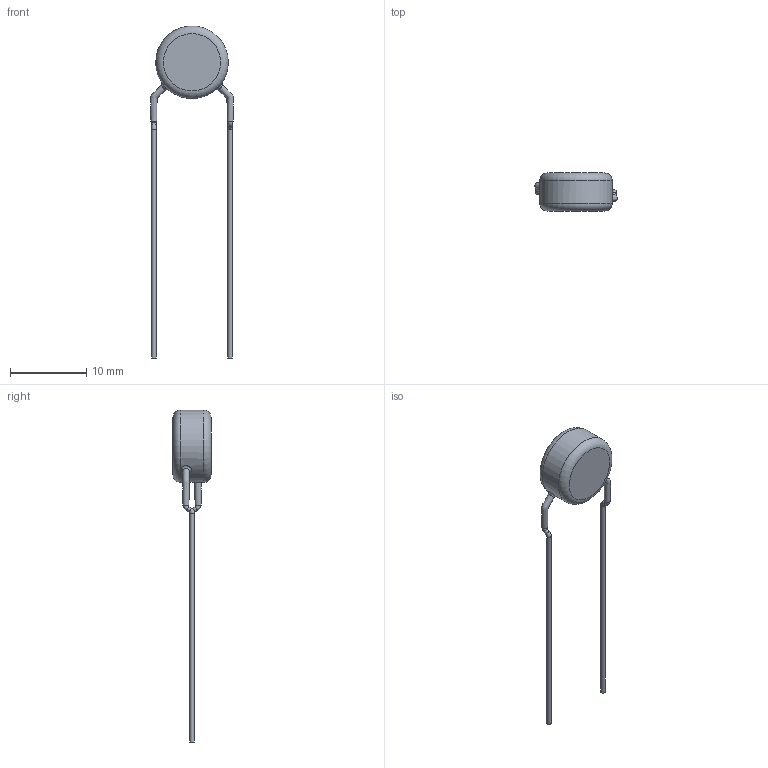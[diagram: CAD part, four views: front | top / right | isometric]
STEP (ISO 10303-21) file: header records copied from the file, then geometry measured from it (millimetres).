
FILE_DESCRIPTION(/* description */ (''),/* implementation_level */ '2;1');
FILE_NAME(/* name */ 'I:\Marketing\M6t1\3D-Models\Zchng-Werk-3\Upload for homepage\BCC\AY2\Inline Dia 0,6 LS 10\AY2222K35Y5US63V0.stp',/* time_stamp */ '2020-11-06T08:56:35+01:00',/* author */ ('truediger'),/* organization */ (''),/* preprocessor_version */ 'ST-DEVELOPER v18',/* originating_system */ 'Autodesk Inventor 2020',/* authorisation */ '');
FILE_SCHEMA (('AUTOMOTIVE_DESIGN { 1 0 10303 214 3 1 1 }'));
Length unit declared in the file: millimetre
Products named in the file (1): Bauteil1
Bounding box: 10.84 x 5 x 43.5 mm (x, y, z)
Volume: 365.9 mm3; surface area: 409.6 mm2
Topology: 1 solids, 1 shells, 29 faces, 73 edges, 48 vertices
Faces by surface type: cylinder 9, bspline 8, torus 6, plane 6
Full cylindrical faces by diameter (mm): 0.6 x4, 9.5 x1
Entity records: 2354 total; most frequent: CARTESIAN_POINT 1613, ORIENTED_EDGE 146, DIRECTION 141, EDGE_CURVE 73, AXIS2_PLACEMENT_3D 68, VERTEX_POINT 48, CIRCLE 44, EDGE_LOOP 31
